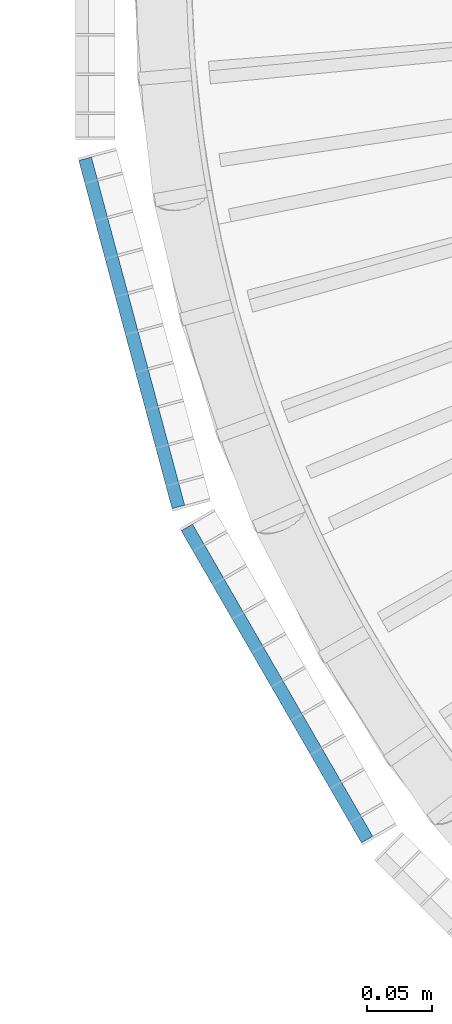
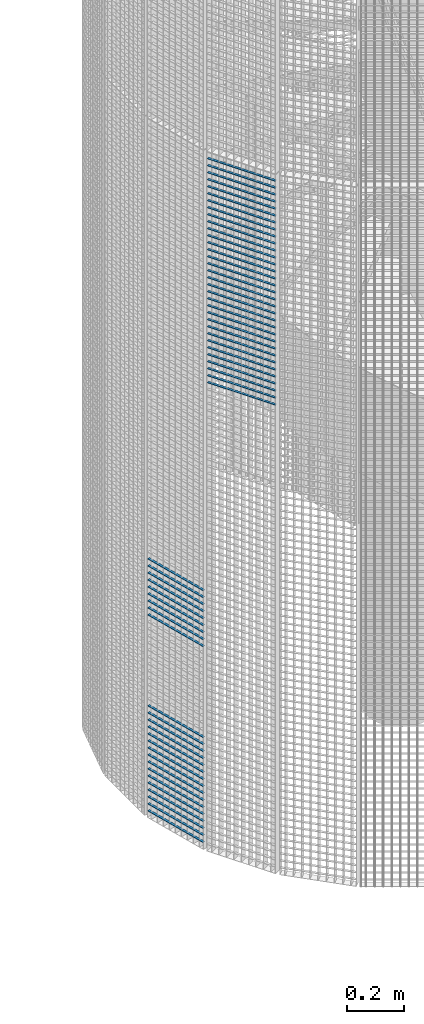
# One storey, part 380 of 1183: 58 beams, 2 elements without a shape of their own.
"""IFC2X3 building model written with IfcOpenShell, lengths in millimetres."""

from ifc_helpers import new_model, si_unit, frame, origin_with_axes, origin_2d_with_axis, place, context, subcontext, project, spatial, rectangle, extrude, material, type_object, element, aggregate, save


model = new_model("IFC2X3")

# Units and contexts
model_context = context("Model", 3, precision=1e-05, world=origin_with_axes())
body_context = subcontext(model_context, "Body", "Model", "MODEL_VIEW")
ifc_project = project(units=[si_unit("LENGTHUNIT", "METRE", prefix="MILLI"), si_unit("AREAUNIT", "SQUARE_METRE"), si_unit("VOLUMEUNIT", "CUBIC_METRE"), si_unit("MASSUNIT", "GRAM", prefix="KILO"), si_unit("TIMEUNIT", "SECOND"), si_unit("PLANEANGLEUNIT", "RADIAN"), si_unit("SOLIDANGLEUNIT", "STERADIAN"), si_unit("THERMODYNAMICTEMPERATUREUNIT", "DEGREE_CELSIUS"), si_unit("LUMINOUSINTENSITYUNIT", "LUMEN")], contexts=[model_context])

# Site, building, storey
site_placement = place(None, origin_with_axes())
site = spatial("IfcSite", under=ifc_project, at=site_placement, Name="Undefined", CompositionType="ELEMENT")
building_placement = place(site_placement, origin_with_axes())
building = spatial("IfcBuilding", under=site, at=building_placement, Name="Undefined", CompositionType="ELEMENT")
storey_placement = place(building_placement, origin_with_axes())
storey = spatial("IfcBuildingStorey", under=building, at=storey_placement, Name="Undefined", CompositionType="ELEMENT", Elevation=0.0)

# Assembly, beams
assembly_1_placement = place(storey_placement, origin_with_axes())
assembly_1 = element("IfcElementAssembly", 1, at=assembly_1_placement, inside=storey, Name="BORDURE", AssemblyPlace="NOTDEFINED", PredefinedType="NOTDEFINED")
ifc_material = material(Name="STEEL/S235JR")
beam_type = type_object("IfcBeamType", Name="PL2*10", PredefinedType="NOTDEFINED")
beam_1_placement = place(assembly_1_placement, frame((20560.1769047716, -421.483733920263, 479.999999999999), z_axis=(-0.965925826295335, -0.258819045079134, 0.0), x_axis=(-0.258819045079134, 0.965925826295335, 0.0)))
beam_1 = element("IfcBeam", 2, at=beam_1_placement, type_object=beam_type, material=ifc_material, Name="ENTRETOISE", context=body_context, shape_type="SweptSolid", body=[
    extrude(rectangle(XDim=2.0, YDim=10.0, at=origin_2d_with_axis()), frame((275.999999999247, 9.09494701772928e-13, 1.53210777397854e-14), z_axis=(-1.0, 0.0, 0.0), x_axis=(0.0, -1.0, 0.0)), (0.0, 0.0, 1.0), 276.0),
])
beam_2_placement = place(assembly_1_placement, frame((20560.1769047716, -421.483733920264, 869.999999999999), z_axis=(-0.965925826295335, -0.258819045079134, 0.0), x_axis=(-0.258819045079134, 0.965925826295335, 0.0)))
beam_2 = element("IfcBeam", 3, at=beam_2_placement, type_object=beam_type, material=ifc_material, Name="ENTRETOISE", context=body_context, shape_type="SweptSolid", body=[
    extrude(rectangle(XDim=2.0, YDim=10.0, at=origin_2d_with_axis()), frame((275.999999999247, 9.09494701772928e-13, 1.53210777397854e-14), z_axis=(-1.0, 0.0, 0.0), x_axis=(0.0, -1.0, 0.0)), (0.0, 0.0, 1.0), 276.0),
])
beam_3_placement = place(assembly_1_placement, frame((20560.1769047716, -421.483733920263, 449.999999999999), z_axis=(-0.965925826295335, -0.258819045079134, 0.0), x_axis=(-0.258819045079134, 0.965925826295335, 0.0)))
beam_3 = element("IfcBeam", 4, at=beam_3_placement, type_object=beam_type, material=ifc_material, Name="ENTRETOISE", context=body_context, shape_type="SweptSolid", body=[
    extrude(rectangle(XDim=2.0, YDim=10.0, at=origin_2d_with_axis()), frame((275.999999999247, 9.09494701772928e-13, 1.53210777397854e-14), z_axis=(-1.0, 0.0, 0.0), x_axis=(0.0, -1.0, 0.0)), (0.0, 0.0, 1.0), 276.0),
])
beam_4_placement = place(assembly_1_placement, frame((20560.1769047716, -421.483733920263, 419.999999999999), z_axis=(-0.965925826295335, -0.258819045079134, 0.0), x_axis=(-0.258819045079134, 0.965925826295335, 0.0)))
beam_4 = element("IfcBeam", 5, at=beam_4_placement, type_object=beam_type, material=ifc_material, Name="ENTRETOISE", context=body_context, shape_type="SweptSolid", body=[
    extrude(rectangle(XDim=2.0, YDim=10.0, at=origin_2d_with_axis()), frame((275.999999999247, 9.09494701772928e-13, 1.53210777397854e-14), z_axis=(-1.0, 0.0, 0.0), x_axis=(0.0, -1.0, 0.0)), (0.0, 0.0, 1.0), 276.0),
])
beam_5_placement = place(assembly_1_placement, frame((20560.1769047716, -421.483733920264, 899.999999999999), z_axis=(-0.965925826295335, -0.258819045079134, 0.0), x_axis=(-0.258819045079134, 0.965925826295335, 0.0)))
beam_5 = element("IfcBeam", 6, at=beam_5_placement, type_object=beam_type, material=ifc_material, Name="ENTRETOISE", context=body_context, shape_type="SweptSolid", body=[
    extrude(rectangle(XDim=2.0, YDim=10.0, at=origin_2d_with_axis()), frame((275.999999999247, 9.09494701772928e-13, 1.53210777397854e-14), z_axis=(-1.0, 0.0, 0.0), x_axis=(0.0, -1.0, 0.0)), (0.0, 0.0, 1.0), 276.0),
])
beam_6_placement = place(assembly_1_placement, frame((20560.1769047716, -421.483733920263, 389.999999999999), z_axis=(-0.965925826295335, -0.258819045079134, 0.0), x_axis=(-0.258819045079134, 0.965925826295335, 0.0)))
beam_6 = element("IfcBeam", 7, at=beam_6_placement, type_object=beam_type, material=ifc_material, Name="ENTRETOISE", context=body_context, shape_type="SweptSolid", body=[
    extrude(rectangle(XDim=2.0, YDim=10.0, at=origin_2d_with_axis()), frame((275.999999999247, 9.09494701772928e-13, 1.53210777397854e-14), z_axis=(-1.0, 0.0, 0.0), x_axis=(0.0, -1.0, 0.0)), (0.0, 0.0, 1.0), 276.0),
])
beam_7_placement = place(assembly_1_placement, frame((20560.1769047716, -421.483733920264, 929.999999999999), z_axis=(-0.965925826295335, -0.258819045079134, 0.0), x_axis=(-0.258819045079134, 0.965925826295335, 0.0)))
beam_7 = element("IfcBeam", 8, at=beam_7_placement, type_object=beam_type, material=ifc_material, Name="ENTRETOISE", context=body_context, shape_type="SweptSolid", body=[
    extrude(rectangle(XDim=2.0, YDim=10.0, at=origin_2d_with_axis()), frame((275.999999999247, 9.09494701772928e-13, 1.53210777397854e-14), z_axis=(-1.0, 0.0, 0.0), x_axis=(0.0, -1.0, 0.0)), (0.0, 0.0, 1.0), 276.0),
])
beam_8_placement = place(assembly_1_placement, frame((20560.1769047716, -421.483733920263, 359.999999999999), z_axis=(-0.965925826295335, -0.258819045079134, 0.0), x_axis=(-0.258819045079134, 0.965925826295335, 0.0)))
beam_8 = element("IfcBeam", 9, at=beam_8_placement, type_object=beam_type, material=ifc_material, Name="ENTRETOISE", context=body_context, shape_type="SweptSolid", body=[
    extrude(rectangle(XDim=2.0, YDim=10.0, at=origin_2d_with_axis()), frame((275.999999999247, 9.09494701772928e-13, 1.53210777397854e-14), z_axis=(-1.0, 0.0, 0.0), x_axis=(0.0, -1.0, 0.0)), (0.0, 0.0, 1.0), 276.0),
])
beam_9_placement = place(assembly_1_placement, frame((20560.1769047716, -421.483733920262, 329.999999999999), z_axis=(-0.965925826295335, -0.258819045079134, 0.0), x_axis=(-0.258819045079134, 0.965925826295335, 0.0)))
beam_9 = element("IfcBeam", 10, at=beam_9_placement, type_object=beam_type, material=ifc_material, Name="ENTRETOISE", context=body_context, shape_type="SweptSolid", body=[
    extrude(rectangle(XDim=2.0, YDim=10.0, at=origin_2d_with_axis()), frame((275.999999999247, 9.09494701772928e-13, 1.53210777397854e-14), z_axis=(-1.0, 0.0, 0.0), x_axis=(0.0, -1.0, 0.0)), (0.0, 0.0, 1.0), 276.0),
])
beam_10_placement = place(assembly_1_placement, frame((20560.1769047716, -421.483733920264, 959.999999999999), z_axis=(-0.965925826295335, -0.258819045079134, 0.0), x_axis=(-0.258819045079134, 0.965925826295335, 0.0)))
beam_10 = element("IfcBeam", 11, at=beam_10_placement, type_object=beam_type, material=ifc_material, Name="ENTRETOISE", context=body_context, shape_type="SweptSolid", body=[
    extrude(rectangle(XDim=2.0, YDim=10.0, at=origin_2d_with_axis()), frame((275.999999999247, 9.09494701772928e-13, 1.53210777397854e-14), z_axis=(-1.0, 0.0, 0.0), x_axis=(0.0, -1.0, 0.0)), (0.0, 0.0, 1.0), 276.0),
])
beam_11_placement = place(assembly_1_placement, frame((20560.1769047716, -421.483733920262, 299.999999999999), z_axis=(-0.965925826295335, -0.258819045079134, 0.0), x_axis=(-0.258819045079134, 0.965925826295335, 0.0)))
beam_11 = element("IfcBeam", 12, at=beam_11_placement, type_object=beam_type, material=ifc_material, Name="ENTRETOISE", context=body_context, shape_type="SweptSolid", body=[
    extrude(rectangle(XDim=2.0, YDim=10.0, at=origin_2d_with_axis()), frame((275.999999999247, 9.09494701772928e-13, 1.53210777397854e-14), z_axis=(-1.0, 0.0, 0.0), x_axis=(0.0, -1.0, 0.0)), (0.0, 0.0, 1.0), 276.0),
])
beam_12_placement = place(assembly_1_placement, frame((20560.1769047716, -421.483733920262, 269.999999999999), z_axis=(-0.965925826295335, -0.258819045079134, 0.0), x_axis=(-0.258819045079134, 0.965925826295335, 0.0)))
beam_12 = element("IfcBeam", 13, at=beam_12_placement, type_object=beam_type, material=ifc_material, Name="ENTRETOISE", context=body_context, shape_type="SweptSolid", body=[
    extrude(rectangle(XDim=2.0, YDim=10.0, at=origin_2d_with_axis()), frame((275.999999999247, 9.09494701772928e-13, 1.53210777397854e-14), z_axis=(-1.0, 0.0, 0.0), x_axis=(0.0, -1.0, 0.0)), (0.0, 0.0, 1.0), 276.0),
])
beam_13_placement = place(assembly_1_placement, frame((20560.1769047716, -421.483733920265, 989.999999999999), z_axis=(-0.965925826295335, -0.258819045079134, 0.0), x_axis=(-0.258819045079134, 0.965925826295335, 0.0)))
beam_13 = element("IfcBeam", 14, at=beam_13_placement, type_object=beam_type, material=ifc_material, Name="ENTRETOISE", context=body_context, shape_type="SweptSolid", body=[
    extrude(rectangle(XDim=2.0, YDim=10.0, at=origin_2d_with_axis()), frame((275.999999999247, 9.09494701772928e-13, 1.53210777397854e-14), z_axis=(-1.0, 0.0, 0.0), x_axis=(0.0, -1.0, 0.0)), (0.0, 0.0, 1.0), 276.0),
])
beam_14_placement = place(assembly_1_placement, frame((20560.1769047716, -421.483733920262, 239.999999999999), z_axis=(-0.965925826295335, -0.258819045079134, 0.0), x_axis=(-0.258819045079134, 0.965925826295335, 0.0)))
beam_14 = element("IfcBeam", 15, at=beam_14_placement, type_object=beam_type, material=ifc_material, Name="ENTRETOISE", context=body_context, shape_type="SweptSolid", body=[
    extrude(rectangle(XDim=2.0, YDim=10.0, at=origin_2d_with_axis()), frame((275.999999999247, 9.09494701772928e-13, 1.53210777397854e-14), z_axis=(-1.0, 0.0, 0.0), x_axis=(0.0, -1.0, 0.0)), (0.0, 0.0, 1.0), 276.0),
])
beam_15_placement = place(assembly_1_placement, frame((20560.1769047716, -421.483733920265, 1020.0), z_axis=(-0.965925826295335, -0.258819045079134, 0.0), x_axis=(-0.258819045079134, 0.965925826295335, 0.0)))
beam_15 = element("IfcBeam", 16, at=beam_15_placement, type_object=beam_type, material=ifc_material, Name="ENTRETOISE", context=body_context, shape_type="SweptSolid", body=[
    extrude(rectangle(XDim=2.0, YDim=10.0, at=origin_2d_with_axis()), frame((275.999999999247, 9.09494701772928e-13, 1.53210777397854e-14), z_axis=(-1.0, 0.0, 0.0), x_axis=(0.0, -1.0, 0.0)), (0.0, 0.0, 1.0), 276.0),
])
beam_16_placement = place(assembly_1_placement, frame((20560.1769047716, -421.483733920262, 209.999999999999), z_axis=(-0.965925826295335, -0.258819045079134, 0.0), x_axis=(-0.258819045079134, 0.965925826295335, 0.0)))
beam_16 = element("IfcBeam", 17, at=beam_16_placement, type_object=beam_type, material=ifc_material, Name="ENTRETOISE", context=body_context, shape_type="SweptSolid", body=[
    extrude(rectangle(XDim=2.0, YDim=10.0, at=origin_2d_with_axis()), frame((275.999999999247, 9.09494701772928e-13, 1.53210777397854e-14), z_axis=(-1.0, 0.0, 0.0), x_axis=(0.0, -1.0, 0.0)), (0.0, 0.0, 1.0), 276.0),
])
beam_17_placement = place(assembly_1_placement, frame((20560.1769047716, -421.483733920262, 179.999999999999), z_axis=(-0.965925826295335, -0.258819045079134, 0.0), x_axis=(-0.258819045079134, 0.965925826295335, 0.0)))
beam_17 = element("IfcBeam", 18, at=beam_17_placement, type_object=beam_type, material=ifc_material, Name="ENTRETOISE", context=body_context, shape_type="SweptSolid", body=[
    extrude(rectangle(XDim=2.0, YDim=10.0, at=origin_2d_with_axis()), frame((275.999999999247, 9.09494701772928e-13, 1.53210777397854e-14), z_axis=(-1.0, 0.0, 0.0), x_axis=(0.0, -1.0, 0.0)), (0.0, 0.0, 1.0), 276.0),
])
beam_18_placement = place(assembly_1_placement, frame((20560.1769047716, -421.483733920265, 1050.0), z_axis=(-0.965925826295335, -0.258819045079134, 0.0), x_axis=(-0.258819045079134, 0.965925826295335, 0.0)))
beam_18 = element("IfcBeam", 19, at=beam_18_placement, type_object=beam_type, material=ifc_material, Name="ENTRETOISE", context=body_context, shape_type="SweptSolid", body=[
    extrude(rectangle(XDim=2.0, YDim=10.0, at=origin_2d_with_axis()), frame((275.999999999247, 9.09494701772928e-13, 1.53210777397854e-14), z_axis=(-1.0, 0.0, 0.0), x_axis=(0.0, -1.0, 0.0)), (0.0, 0.0, 1.0), 276.0),
])
beam_19_placement = place(assembly_1_placement, frame((20560.1769047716, -421.483733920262, 149.999999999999), z_axis=(-0.965925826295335, -0.258819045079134, 0.0), x_axis=(-0.258819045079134, 0.965925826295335, 0.0)))
beam_19 = element("IfcBeam", 20, at=beam_19_placement, type_object=beam_type, material=ifc_material, Name="ENTRETOISE", context=body_context, shape_type="SweptSolid", body=[
    extrude(rectangle(XDim=2.0, YDim=10.0, at=origin_2d_with_axis()), frame((275.999999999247, 9.09494701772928e-13, 1.53210777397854e-14), z_axis=(-1.0, 0.0, 0.0), x_axis=(0.0, -1.0, 0.0)), (0.0, 0.0, 1.0), 276.0),
])
beam_20_placement = place(assembly_1_placement, frame((20560.1769047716, -421.483733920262, 119.999999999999), z_axis=(-0.965925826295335, -0.258819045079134, 0.0), x_axis=(-0.258819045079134, 0.965925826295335, 0.0)))
beam_20 = element("IfcBeam", 21, at=beam_20_placement, type_object=beam_type, material=ifc_material, Name="ENTRETOISE", context=body_context, shape_type="SweptSolid", body=[
    extrude(rectangle(XDim=2.0, YDim=10.0, at=origin_2d_with_axis()), frame((275.999999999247, 9.09494701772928e-13, 1.53210777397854e-14), z_axis=(-1.0, 0.0, 0.0), x_axis=(0.0, -1.0, 0.0)), (0.0, 0.0, 1.0), 276.0),
])
beam_21_placement = place(assembly_1_placement, frame((20560.1769047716, -421.483733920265, 1080.0), z_axis=(-0.965925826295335, -0.258819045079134, 0.0), x_axis=(-0.258819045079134, 0.965925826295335, 0.0)))
beam_21 = element("IfcBeam", 22, at=beam_21_placement, type_object=beam_type, material=ifc_material, Name="ENTRETOISE", context=body_context, shape_type="SweptSolid", body=[
    extrude(rectangle(XDim=2.0, YDim=10.0, at=origin_2d_with_axis()), frame((275.999999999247, 9.09494701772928e-13, 1.53210777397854e-14), z_axis=(-1.0, 0.0, 0.0), x_axis=(0.0, -1.0, 0.0)), (0.0, 0.0, 1.0), 276.0),
])
beam_22_placement = place(assembly_1_placement, frame((20560.1769047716, -421.483733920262, 89.9999999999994), z_axis=(-0.965925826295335, -0.258819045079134, 0.0), x_axis=(-0.258819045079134, 0.965925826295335, 0.0)))
beam_22 = element("IfcBeam", 23, at=beam_22_placement, type_object=beam_type, material=ifc_material, Name="ENTRETOISE", context=body_context, shape_type="SweptSolid", body=[
    extrude(rectangle(XDim=2.0, YDim=10.0, at=origin_2d_with_axis()), frame((275.999999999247, 9.09494701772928e-13, 1.53210777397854e-14), z_axis=(-1.0, 0.0, 0.0), x_axis=(0.0, -1.0, 0.0)), (0.0, 0.0, 1.0), 276.0),
])
beam_23_placement = place(assembly_1_placement, frame((20560.1769047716, -421.483733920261, 59.9999999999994), z_axis=(-0.965925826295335, -0.258819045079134, 0.0), x_axis=(-0.258819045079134, 0.965925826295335, 0.0)))
beam_23 = element("IfcBeam", 24, at=beam_23_placement, type_object=beam_type, material=ifc_material, Name="ENTRETOISE", context=body_context, shape_type="SweptSolid", body=[
    extrude(rectangle(XDim=2.0, YDim=10.0, at=origin_2d_with_axis()), frame((275.999999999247, 9.09494701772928e-13, 1.53210777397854e-14), z_axis=(-1.0, 0.0, 0.0), x_axis=(0.0, -1.0, 0.0)), (0.0, 0.0, 1.0), 276.0),
])
beam_24_placement = place(assembly_1_placement, frame((20560.1769047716, -421.483733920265, 1110.0), z_axis=(-0.965925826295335, -0.258819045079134, 0.0), x_axis=(-0.258819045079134, 0.965925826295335, 0.0)))
beam_24 = element("IfcBeam", 25, at=beam_24_placement, type_object=beam_type, material=ifc_material, Name="ENTRETOISE", context=body_context, shape_type="SweptSolid", body=[
    extrude(rectangle(XDim=2.0, YDim=10.0, at=origin_2d_with_axis()), frame((275.999999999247, 9.09494701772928e-13, 1.53210777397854e-14), z_axis=(-1.0, 0.0, 0.0), x_axis=(0.0, -1.0, 0.0)), (0.0, 0.0, 1.0), 276.0),
])
beam_25_placement = place(assembly_1_placement, frame((20560.1769047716, -421.48373392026, 29.9999999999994), z_axis=(-0.965925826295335, -0.258819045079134, 0.0), x_axis=(-0.258819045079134, 0.965925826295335, 0.0)))
beam_25 = element("IfcBeam", 26, at=beam_25_placement, type_object=beam_type, material=ifc_material, Name="ENTRETOISE", context=body_context, shape_type="SweptSolid", body=[
    extrude(rectangle(XDim=2.0, YDim=10.0, at=origin_2d_with_axis()), frame((275.999999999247, 9.09494701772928e-13, 1.53210777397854e-14), z_axis=(-1.0, 0.0, 0.0), x_axis=(0.0, -1.0, 0.0)), (0.0, 0.0, 1.0), 276.0),
])
aggregate(assembly_1, [beam_1, beam_2, beam_3, beam_4, beam_5, beam_6, beam_7, beam_8, beam_9, beam_10, beam_11, beam_12, beam_13, beam_14, beam_15, beam_16, beam_17, beam_18, beam_19, beam_20, beam_21, beam_22, beam_23, beam_24, beam_25])

assembly_2_placement = place(storey_placement, origin_with_axes())
assembly_2 = element("IfcElementAssembly", 27, at=assembly_2_placement, inside=storey, Name="BORDURE", AssemblyPlace="NOTDEFINED", PredefinedType="NOTDEFINED")
beam_26_placement = place(assembly_2_placement, frame((20704.6960350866, -676.248044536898, 2970.0), z_axis=(-0.866025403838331, -0.499999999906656, 0.0), x_axis=(-0.49999999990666, 0.866025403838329, 0.0)))
beam_26 = element("IfcBeam", 28, at=beam_26_placement, type_object=beam_type, material=ifc_material, Name="ENTRETOISE", context=body_context, shape_type="SweptSolid", body=[
    extrude(rectangle(XDim=2.0, YDim=10.0, at=origin_2d_with_axis()), frame((275.999999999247, 9.09494701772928e-13, 1.53210777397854e-14), z_axis=(-1.0, 0.0, 0.0), x_axis=(0.0, -1.0, 0.0)), (0.0, 0.0, 1.0), 276.0),
])
beam_27_placement = place(assembly_2_placement, frame((20704.6960350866, -676.248044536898, 2940.0), z_axis=(-0.866025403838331, -0.499999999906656, 0.0), x_axis=(-0.49999999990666, 0.866025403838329, 0.0)))
beam_27 = element("IfcBeam", 29, at=beam_27_placement, type_object=beam_type, material=ifc_material, Name="ENTRETOISE", context=body_context, shape_type="SweptSolid", body=[
    extrude(rectangle(XDim=2.0, YDim=10.0, at=origin_2d_with_axis()), frame((275.999999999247, 9.09494701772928e-13, 1.53210777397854e-14), z_axis=(-1.0, 0.0, 0.0), x_axis=(0.0, -1.0, 0.0)), (0.0, 0.0, 1.0), 276.0),
])
beam_28_placement = place(assembly_2_placement, frame((20704.6960350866, -676.248044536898, 2910.0), z_axis=(-0.866025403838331, -0.499999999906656, 0.0), x_axis=(-0.49999999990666, 0.866025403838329, 0.0)))
beam_28 = element("IfcBeam", 30, at=beam_28_placement, type_object=beam_type, material=ifc_material, Name="ENTRETOISE", context=body_context, shape_type="SweptSolid", body=[
    extrude(rectangle(XDim=2.0, YDim=10.0, at=origin_2d_with_axis()), frame((275.999999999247, 9.09494701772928e-13, 1.53210777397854e-14), z_axis=(-1.0, 0.0, 0.0), x_axis=(0.0, -1.0, 0.0)), (0.0, 0.0, 1.0), 276.0),
])
beam_29_placement = place(assembly_2_placement, frame((20704.6960350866, -676.248044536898, 2880.0), z_axis=(-0.866025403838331, -0.499999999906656, 0.0), x_axis=(-0.49999999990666, 0.866025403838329, 0.0)))
beam_29 = element("IfcBeam", 31, at=beam_29_placement, type_object=beam_type, material=ifc_material, Name="ENTRETOISE", context=body_context, shape_type="SweptSolid", body=[
    extrude(rectangle(XDim=2.0, YDim=10.0, at=origin_2d_with_axis()), frame((275.999999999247, 9.09494701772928e-13, 1.53210777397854e-14), z_axis=(-1.0, 0.0, 0.0), x_axis=(0.0, -1.0, 0.0)), (0.0, 0.0, 1.0), 276.0),
])
beam_30_placement = place(assembly_2_placement, frame((20704.6960350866, -676.248044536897, 2850.0), z_axis=(-0.866025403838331, -0.499999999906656, 0.0), x_axis=(-0.49999999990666, 0.866025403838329, 0.0)))
beam_30 = element("IfcBeam", 32, at=beam_30_placement, type_object=beam_type, material=ifc_material, Name="ENTRETOISE", context=body_context, shape_type="SweptSolid", body=[
    extrude(rectangle(XDim=2.0, YDim=10.0, at=origin_2d_with_axis()), frame((275.999999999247, 9.09494701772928e-13, 1.53210777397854e-14), z_axis=(-1.0, 0.0, 0.0), x_axis=(0.0, -1.0, 0.0)), (0.0, 0.0, 1.0), 276.0),
])
beam_31_placement = place(assembly_2_placement, frame((20704.6960350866, -676.248044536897, 2820.0), z_axis=(-0.866025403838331, -0.499999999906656, 0.0), x_axis=(-0.49999999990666, 0.866025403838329, 0.0)))
beam_31 = element("IfcBeam", 33, at=beam_31_placement, type_object=beam_type, material=ifc_material, Name="ENTRETOISE", context=body_context, shape_type="SweptSolid", body=[
    extrude(rectangle(XDim=2.0, YDim=10.0, at=origin_2d_with_axis()), frame((275.999999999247, 9.09494701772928e-13, 1.53210777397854e-14), z_axis=(-1.0, 0.0, 0.0), x_axis=(0.0, -1.0, 0.0)), (0.0, 0.0, 1.0), 276.0),
])
beam_32_placement = place(assembly_2_placement, frame((20704.6960350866, -676.248044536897, 2790.0), z_axis=(-0.866025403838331, -0.499999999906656, 0.0), x_axis=(-0.49999999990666, 0.866025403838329, 0.0)))
beam_32 = element("IfcBeam", 34, at=beam_32_placement, type_object=beam_type, material=ifc_material, Name="ENTRETOISE", context=body_context, shape_type="SweptSolid", body=[
    extrude(rectangle(XDim=2.0, YDim=10.0, at=origin_2d_with_axis()), frame((275.999999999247, 9.09494701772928e-13, 1.53210777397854e-14), z_axis=(-1.0, 0.0, 0.0), x_axis=(0.0, -1.0, 0.0)), (0.0, 0.0, 1.0), 276.0),
])
beam_33_placement = place(assembly_2_placement, frame((20704.6960350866, -676.248044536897, 2760.0), z_axis=(-0.866025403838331, -0.499999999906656, 0.0), x_axis=(-0.49999999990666, 0.866025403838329, 0.0)))
beam_33 = element("IfcBeam", 35, at=beam_33_placement, type_object=beam_type, material=ifc_material, Name="ENTRETOISE", context=body_context, shape_type="SweptSolid", body=[
    extrude(rectangle(XDim=2.0, YDim=10.0, at=origin_2d_with_axis()), frame((275.999999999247, 9.09494701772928e-13, 1.53210777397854e-14), z_axis=(-1.0, 0.0, 0.0), x_axis=(0.0, -1.0, 0.0)), (0.0, 0.0, 1.0), 276.0),
])
beam_34_placement = place(assembly_2_placement, frame((20704.6960350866, -676.248044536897, 2730.0), z_axis=(-0.866025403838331, -0.499999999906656, 0.0), x_axis=(-0.49999999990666, 0.866025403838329, 0.0)))
beam_34 = element("IfcBeam", 36, at=beam_34_placement, type_object=beam_type, material=ifc_material, Name="ENTRETOISE", context=body_context, shape_type="SweptSolid", body=[
    extrude(rectangle(XDim=2.0, YDim=10.0, at=origin_2d_with_axis()), frame((275.999999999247, 9.09494701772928e-13, 1.53210777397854e-14), z_axis=(-1.0, 0.0, 0.0), x_axis=(0.0, -1.0, 0.0)), (0.0, 0.0, 1.0), 276.0),
])
beam_35_placement = place(assembly_2_placement, frame((20704.6960350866, -676.248044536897, 2700.0), z_axis=(-0.866025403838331, -0.499999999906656, 0.0), x_axis=(-0.49999999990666, 0.866025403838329, 0.0)))
beam_35 = element("IfcBeam", 37, at=beam_35_placement, type_object=beam_type, material=ifc_material, Name="ENTRETOISE", context=body_context, shape_type="SweptSolid", body=[
    extrude(rectangle(XDim=2.0, YDim=10.0, at=origin_2d_with_axis()), frame((275.999999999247, 9.09494701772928e-13, 1.53210777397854e-14), z_axis=(-1.0, 0.0, 0.0), x_axis=(0.0, -1.0, 0.0)), (0.0, 0.0, 1.0), 276.0),
])
beam_36_placement = place(assembly_2_placement, frame((20704.6960350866, -676.248044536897, 2670.0), z_axis=(-0.866025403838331, -0.499999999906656, 0.0), x_axis=(-0.49999999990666, 0.866025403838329, 0.0)))
beam_36 = element("IfcBeam", 38, at=beam_36_placement, type_object=beam_type, material=ifc_material, Name="ENTRETOISE", context=body_context, shape_type="SweptSolid", body=[
    extrude(rectangle(XDim=2.0, YDim=10.0, at=origin_2d_with_axis()), frame((275.999999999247, 9.09494701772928e-13, 1.53210777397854e-14), z_axis=(-1.0, 0.0, 0.0), x_axis=(0.0, -1.0, 0.0)), (0.0, 0.0, 1.0), 276.0),
])
beam_37_placement = place(assembly_2_placement, frame((20704.6960350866, -676.248044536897, 2640.0), z_axis=(-0.866025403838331, -0.499999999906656, 0.0), x_axis=(-0.49999999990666, 0.866025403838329, 0.0)))
beam_37 = element("IfcBeam", 39, at=beam_37_placement, type_object=beam_type, material=ifc_material, Name="ENTRETOISE", context=body_context, shape_type="SweptSolid", body=[
    extrude(rectangle(XDim=2.0, YDim=10.0, at=origin_2d_with_axis()), frame((275.999999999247, 9.09494701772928e-13, 1.53210777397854e-14), z_axis=(-1.0, 0.0, 0.0), x_axis=(0.0, -1.0, 0.0)), (0.0, 0.0, 1.0), 276.0),
])
beam_38_placement = place(assembly_2_placement, frame((20704.6960350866, -676.248044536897, 2610.0), z_axis=(-0.866025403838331, -0.499999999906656, 0.0), x_axis=(-0.49999999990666, 0.866025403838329, 0.0)))
beam_38 = element("IfcBeam", 40, at=beam_38_placement, type_object=beam_type, material=ifc_material, Name="ENTRETOISE", context=body_context, shape_type="SweptSolid", body=[
    extrude(rectangle(XDim=2.0, YDim=10.0, at=origin_2d_with_axis()), frame((275.999999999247, 9.09494701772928e-13, 1.53210777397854e-14), z_axis=(-1.0, 0.0, 0.0), x_axis=(0.0, -1.0, 0.0)), (0.0, 0.0, 1.0), 276.0),
])
beam_39_placement = place(assembly_2_placement, frame((20704.6960350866, -676.248044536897, 2580.0), z_axis=(-0.866025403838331, -0.499999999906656, 0.0), x_axis=(-0.49999999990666, 0.866025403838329, 0.0)))
beam_39 = element("IfcBeam", 41, at=beam_39_placement, type_object=beam_type, material=ifc_material, Name="ENTRETOISE", context=body_context, shape_type="SweptSolid", body=[
    extrude(rectangle(XDim=2.0, YDim=10.0, at=origin_2d_with_axis()), frame((275.999999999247, 9.09494701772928e-13, 1.53210777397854e-14), z_axis=(-1.0, 0.0, 0.0), x_axis=(0.0, -1.0, 0.0)), (0.0, 0.0, 1.0), 276.0),
])
beam_40_placement = place(assembly_2_placement, frame((20704.6960350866, -676.248044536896, 2550.0), z_axis=(-0.866025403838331, -0.499999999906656, 0.0), x_axis=(-0.49999999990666, 0.866025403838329, 0.0)))
beam_40 = element("IfcBeam", 42, at=beam_40_placement, type_object=beam_type, material=ifc_material, Name="ENTRETOISE", context=body_context, shape_type="SweptSolid", body=[
    extrude(rectangle(XDim=2.0, YDim=10.0, at=origin_2d_with_axis()), frame((275.999999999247, 9.09494701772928e-13, 1.53210777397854e-14), z_axis=(-1.0, 0.0, 0.0), x_axis=(0.0, -1.0, 0.0)), (0.0, 0.0, 1.0), 276.0),
])
beam_41_placement = place(assembly_2_placement, frame((20704.6960350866, -676.248044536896, 2520.0), z_axis=(-0.866025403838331, -0.499999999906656, 0.0), x_axis=(-0.49999999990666, 0.866025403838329, 0.0)))
beam_41 = element("IfcBeam", 43, at=beam_41_placement, type_object=beam_type, material=ifc_material, Name="ENTRETOISE", context=body_context, shape_type="SweptSolid", body=[
    extrude(rectangle(XDim=2.0, YDim=10.0, at=origin_2d_with_axis()), frame((275.999999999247, 9.09494701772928e-13, 1.53210777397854e-14), z_axis=(-1.0, 0.0, 0.0), x_axis=(0.0, -1.0, 0.0)), (0.0, 0.0, 1.0), 276.0),
])
beam_42_placement = place(assembly_2_placement, frame((20704.6960350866, -676.248044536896, 2490.0), z_axis=(-0.866025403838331, -0.499999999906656, 0.0), x_axis=(-0.49999999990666, 0.866025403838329, 0.0)))
beam_42 = element("IfcBeam", 44, at=beam_42_placement, type_object=beam_type, material=ifc_material, Name="ENTRETOISE", context=body_context, shape_type="SweptSolid", body=[
    extrude(rectangle(XDim=2.0, YDim=10.0, at=origin_2d_with_axis()), frame((275.999999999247, 9.09494701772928e-13, 1.53210777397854e-14), z_axis=(-1.0, 0.0, 0.0), x_axis=(0.0, -1.0, 0.0)), (0.0, 0.0, 1.0), 276.0),
])
beam_43_placement = place(assembly_2_placement, frame((20704.6960350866, -676.248044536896, 2460.0), z_axis=(-0.866025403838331, -0.499999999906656, 0.0), x_axis=(-0.49999999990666, 0.866025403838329, 0.0)))
beam_43 = element("IfcBeam", 45, at=beam_43_placement, type_object=beam_type, material=ifc_material, Name="ENTRETOISE", context=body_context, shape_type="SweptSolid", body=[
    extrude(rectangle(XDim=2.0, YDim=10.0, at=origin_2d_with_axis()), frame((275.999999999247, 9.09494701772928e-13, 1.53210777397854e-14), z_axis=(-1.0, 0.0, 0.0), x_axis=(0.0, -1.0, 0.0)), (0.0, 0.0, 1.0), 276.0),
])
beam_44_placement = place(assembly_2_placement, frame((20704.6960350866, -676.248044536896, 2430.0), z_axis=(-0.866025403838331, -0.499999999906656, 0.0), x_axis=(-0.49999999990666, 0.866025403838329, 0.0)))
beam_44 = element("IfcBeam", 46, at=beam_44_placement, type_object=beam_type, material=ifc_material, Name="ENTRETOISE", context=body_context, shape_type="SweptSolid", body=[
    extrude(rectangle(XDim=2.0, YDim=10.0, at=origin_2d_with_axis()), frame((275.999999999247, 9.09494701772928e-13, 1.53210777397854e-14), z_axis=(-1.0, 0.0, 0.0), x_axis=(0.0, -1.0, 0.0)), (0.0, 0.0, 1.0), 276.0),
])
beam_45_placement = place(assembly_2_placement, frame((20704.6960350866, -676.248044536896, 2400.0), z_axis=(-0.866025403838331, -0.499999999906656, 0.0), x_axis=(-0.49999999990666, 0.866025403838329, 0.0)))
beam_45 = element("IfcBeam", 47, at=beam_45_placement, type_object=beam_type, material=ifc_material, Name="ENTRETOISE", context=body_context, shape_type="SweptSolid", body=[
    extrude(rectangle(XDim=2.0, YDim=10.0, at=origin_2d_with_axis()), frame((275.999999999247, 9.09494701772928e-13, 1.53210777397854e-14), z_axis=(-1.0, 0.0, 0.0), x_axis=(0.0, -1.0, 0.0)), (0.0, 0.0, 1.0), 276.0),
])
beam_46_placement = place(assembly_2_placement, frame((20704.6960350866, -676.248044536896, 2370.0), z_axis=(-0.866025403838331, -0.499999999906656, 0.0), x_axis=(-0.49999999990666, 0.866025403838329, 0.0)))
beam_46 = element("IfcBeam", 48, at=beam_46_placement, type_object=beam_type, material=ifc_material, Name="ENTRETOISE", context=body_context, shape_type="SweptSolid", body=[
    extrude(rectangle(XDim=2.0, YDim=10.0, at=origin_2d_with_axis()), frame((275.999999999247, 9.09494701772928e-13, 1.53210777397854e-14), z_axis=(-1.0, 0.0, 0.0), x_axis=(0.0, -1.0, 0.0)), (0.0, 0.0, 1.0), 276.0),
])
beam_47_placement = place(assembly_2_placement, frame((20704.6960350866, -676.248044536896, 2340.0), z_axis=(-0.866025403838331, -0.499999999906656, 0.0), x_axis=(-0.49999999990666, 0.866025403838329, 0.0)))
beam_47 = element("IfcBeam", 49, at=beam_47_placement, type_object=beam_type, material=ifc_material, Name="ENTRETOISE", context=body_context, shape_type="SweptSolid", body=[
    extrude(rectangle(XDim=2.0, YDim=10.0, at=origin_2d_with_axis()), frame((275.999999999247, 9.09494701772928e-13, 1.53210777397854e-14), z_axis=(-1.0, 0.0, 0.0), x_axis=(0.0, -1.0, 0.0)), (0.0, 0.0, 1.0), 276.0),
])
beam_48_placement = place(assembly_2_placement, frame((20704.6960350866, -676.248044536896, 2310.0), z_axis=(-0.866025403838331, -0.499999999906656, 0.0), x_axis=(-0.49999999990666, 0.866025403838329, 0.0)))
beam_48 = element("IfcBeam", 50, at=beam_48_placement, type_object=beam_type, material=ifc_material, Name="ENTRETOISE", context=body_context, shape_type="SweptSolid", body=[
    extrude(rectangle(XDim=2.0, YDim=10.0, at=origin_2d_with_axis()), frame((275.999999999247, 9.09494701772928e-13, 1.53210777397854e-14), z_axis=(-1.0, 0.0, 0.0), x_axis=(0.0, -1.0, 0.0)), (0.0, 0.0, 1.0), 276.0),
])
beam_49_placement = place(assembly_2_placement, frame((20704.6960350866, -676.248044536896, 2280.0), z_axis=(-0.866025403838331, -0.499999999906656, 0.0), x_axis=(-0.49999999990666, 0.866025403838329, 0.0)))
beam_49 = element("IfcBeam", 51, at=beam_49_placement, type_object=beam_type, material=ifc_material, Name="ENTRETOISE", context=body_context, shape_type="SweptSolid", body=[
    extrude(rectangle(XDim=2.0, YDim=10.0, at=origin_2d_with_axis()), frame((275.999999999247, 9.09494701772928e-13, 1.53210777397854e-14), z_axis=(-1.0, 0.0, 0.0), x_axis=(0.0, -1.0, 0.0)), (0.0, 0.0, 1.0), 276.0),
])
beam_50_placement = place(assembly_2_placement, frame((20704.6960350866, -676.248044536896, 2250.0), z_axis=(-0.866025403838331, -0.499999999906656, 0.0), x_axis=(-0.49999999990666, 0.866025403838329, 0.0)))
beam_50 = element("IfcBeam", 52, at=beam_50_placement, type_object=beam_type, material=ifc_material, Name="ENTRETOISE", context=body_context, shape_type="SweptSolid", body=[
    extrude(rectangle(XDim=2.0, YDim=10.0, at=origin_2d_with_axis()), frame((275.999999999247, 9.09494701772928e-13, 1.53210777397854e-14), z_axis=(-1.0, 0.0, 0.0), x_axis=(0.0, -1.0, 0.0)), (0.0, 0.0, 1.0), 276.0),
])
beam_51_placement = place(assembly_2_placement, frame((20704.6960350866, -676.248044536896, 2220.0), z_axis=(-0.866025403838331, -0.499999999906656, 0.0), x_axis=(-0.49999999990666, 0.866025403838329, 0.0)))
beam_51 = element("IfcBeam", 53, at=beam_51_placement, type_object=beam_type, material=ifc_material, Name="ENTRETOISE", context=body_context, shape_type="SweptSolid", body=[
    extrude(rectangle(XDim=2.0, YDim=10.0, at=origin_2d_with_axis()), frame((275.999999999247, 9.09494701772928e-13, 1.53210777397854e-14), z_axis=(-1.0, 0.0, 0.0), x_axis=(0.0, -1.0, 0.0)), (0.0, 0.0, 1.0), 276.0),
])
beam_52_placement = place(assembly_2_placement, frame((20704.6960350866, -676.248044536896, 2190.0), z_axis=(-0.866025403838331, -0.499999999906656, 0.0), x_axis=(-0.49999999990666, 0.866025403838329, 0.0)))
beam_52 = element("IfcBeam", 54, at=beam_52_placement, type_object=beam_type, material=ifc_material, Name="ENTRETOISE", context=body_context, shape_type="SweptSolid", body=[
    extrude(rectangle(XDim=2.0, YDim=10.0, at=origin_2d_with_axis()), frame((275.999999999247, 9.09494701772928e-13, 1.53210777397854e-14), z_axis=(-1.0, 0.0, 0.0), x_axis=(0.0, -1.0, 0.0)), (0.0, 0.0, 1.0), 276.0),
])
beam_53_placement = place(assembly_2_placement, frame((20704.6960350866, -676.248044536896, 2160.0), z_axis=(-0.866025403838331, -0.499999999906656, 0.0), x_axis=(-0.49999999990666, 0.866025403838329, 0.0)))
beam_53 = element("IfcBeam", 55, at=beam_53_placement, type_object=beam_type, material=ifc_material, Name="ENTRETOISE", context=body_context, shape_type="SweptSolid", body=[
    extrude(rectangle(XDim=2.0, YDim=10.0, at=origin_2d_with_axis()), frame((275.999999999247, 9.09494701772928e-13, 1.53210777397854e-14), z_axis=(-1.0, 0.0, 0.0), x_axis=(0.0, -1.0, 0.0)), (0.0, 0.0, 1.0), 276.0),
])
beam_54_placement = place(assembly_2_placement, frame((20704.6960350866, -676.248044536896, 2130.0), z_axis=(-0.866025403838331, -0.499999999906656, 0.0), x_axis=(-0.49999999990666, 0.866025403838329, 0.0)))
beam_54 = element("IfcBeam", 56, at=beam_54_placement, type_object=beam_type, material=ifc_material, Name="ENTRETOISE", context=body_context, shape_type="SweptSolid", body=[
    extrude(rectangle(XDim=2.0, YDim=10.0, at=origin_2d_with_axis()), frame((275.999999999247, 9.09494701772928e-13, 1.53210777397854e-14), z_axis=(-1.0, 0.0, 0.0), x_axis=(0.0, -1.0, 0.0)), (0.0, 0.0, 1.0), 276.0),
])
beam_55_placement = place(assembly_2_placement, frame((20704.6960350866, -676.248044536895, 2100.0), z_axis=(-0.866025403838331, -0.499999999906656, 0.0), x_axis=(-0.49999999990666, 0.866025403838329, 0.0)))
beam_55 = element("IfcBeam", 57, at=beam_55_placement, type_object=beam_type, material=ifc_material, Name="ENTRETOISE", context=body_context, shape_type="SweptSolid", body=[
    extrude(rectangle(XDim=2.0, YDim=10.0, at=origin_2d_with_axis()), frame((275.999999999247, 9.09494701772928e-13, 1.53210777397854e-14), z_axis=(-1.0, 0.0, 0.0), x_axis=(0.0, -1.0, 0.0)), (0.0, 0.0, 1.0), 276.0),
])
beam_56_placement = place(assembly_2_placement, frame((20704.6960350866, -676.248044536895, 2070.0), z_axis=(-0.866025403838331, -0.499999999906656, 0.0), x_axis=(-0.49999999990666, 0.866025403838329, 0.0)))
beam_56 = element("IfcBeam", 58, at=beam_56_placement, type_object=beam_type, material=ifc_material, Name="ENTRETOISE", context=body_context, shape_type="SweptSolid", body=[
    extrude(rectangle(XDim=2.0, YDim=10.0, at=origin_2d_with_axis()), frame((275.999999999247, 9.09494701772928e-13, 1.53210777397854e-14), z_axis=(-1.0, 0.0, 0.0), x_axis=(0.0, -1.0, 0.0)), (0.0, 0.0, 1.0), 276.0),
])
beam_57_placement = place(assembly_2_placement, frame((20704.6960350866, -676.248044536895, 2040.0), z_axis=(-0.866025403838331, -0.499999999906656, 0.0), x_axis=(-0.49999999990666, 0.866025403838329, 0.0)))
beam_57 = element("IfcBeam", 59, at=beam_57_placement, type_object=beam_type, material=ifc_material, Name="ENTRETOISE", context=body_context, shape_type="SweptSolid", body=[
    extrude(rectangle(XDim=2.0, YDim=10.0, at=origin_2d_with_axis()), frame((275.999999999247, 9.09494701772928e-13, 1.53210777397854e-14), z_axis=(-1.0, 0.0, 0.0), x_axis=(0.0, -1.0, 0.0)), (0.0, 0.0, 1.0), 276.0),
])
beam_58_placement = place(assembly_2_placement, frame((20704.6960350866, -676.248044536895, 2010.0), z_axis=(-0.866025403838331, -0.499999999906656, 0.0), x_axis=(-0.49999999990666, 0.866025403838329, 0.0)))
beam_58 = element("IfcBeam", 60, at=beam_58_placement, type_object=beam_type, material=ifc_material, Name="ENTRETOISE", context=body_context, shape_type="SweptSolid", body=[
    extrude(rectangle(XDim=2.0, YDim=10.0, at=origin_2d_with_axis()), frame((275.999999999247, 9.09494701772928e-13, 1.53210777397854e-14), z_axis=(-1.0, 0.0, 0.0), x_axis=(0.0, -1.0, 0.0)), (0.0, 0.0, 1.0), 276.0),
])
aggregate(assembly_2, [beam_26, beam_27, beam_28, beam_29, beam_30, beam_31, beam_32, beam_33, beam_34, beam_35, beam_36, beam_37, beam_38, beam_39, beam_40, beam_41, beam_42, beam_43, beam_44, beam_45, beam_46, beam_47, beam_48, beam_49, beam_50, beam_51, beam_52, beam_53, beam_54, beam_55, beam_56, beam_57, beam_58])

save(model, "model.ifc")
